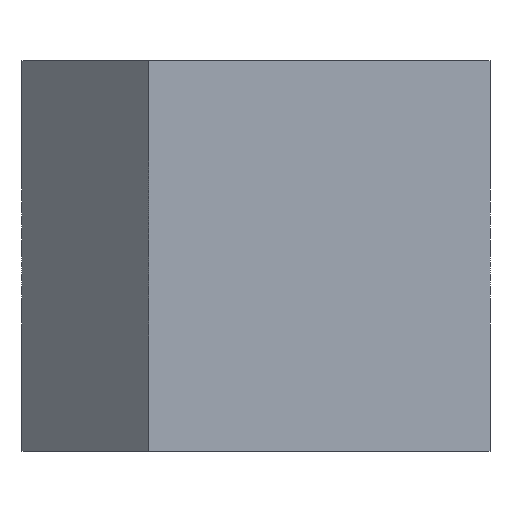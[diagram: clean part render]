
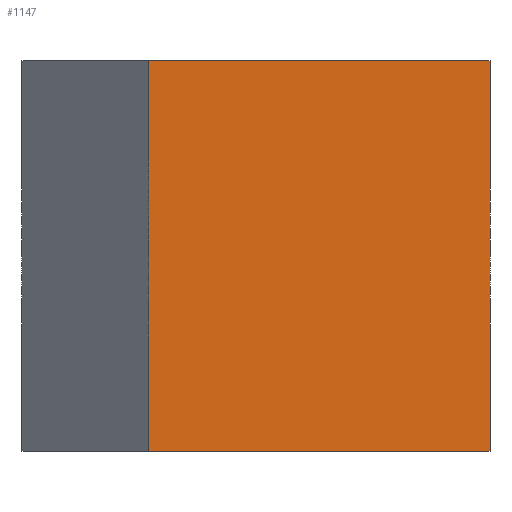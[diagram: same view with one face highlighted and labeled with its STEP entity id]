
A CAD part, left-side view. The second image highlights one B-rep face of the part: STEP entity #1147.
In plain terms, the highlighted planar face has unit normal (-1, 0, 0).
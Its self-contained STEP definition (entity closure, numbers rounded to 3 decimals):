
#70 = LINE ( 'NONE', #1492, #809 ) ;
#230 = ORIENTED_EDGE ( 'NONE', *, *, #1870, .T. ) ;
#231 = DIRECTION ( 'NONE',  ( 0., -1., 0. ) ) ;
#234 = CARTESIAN_POINT ( 'NONE',  ( -33., 11., -20. ) ) ;
#375 = LINE ( 'NONE', #700, #1173 ) ;
#381 = LINE ( 'NONE', #1633, #1565 ) ;
#396 = EDGE_CURVE ( 'NONE', #1498, #951, #928, .T. ) ;
#422 = ORIENTED_EDGE ( 'NONE', *, *, #540, .T. ) ;
#540 = EDGE_CURVE ( 'NONE', #1793, #1138, #381, .T. ) ;
#550 = AXIS2_PLACEMENT_3D ( 'NONE', #735, #776, #1080 ) ;
#638 = EDGE_LOOP ( 'NONE', ( #1671, #422, #230, #1540 ) ) ;
#655 = CARTESIAN_POINT ( 'NONE',  ( -33., -24., 20. ) ) ;
#700 = CARTESIAN_POINT ( 'NONE',  ( -33., 11., -20. ) ) ;
#735 = CARTESIAN_POINT ( 'NONE',  ( -33., -24., -20. ) ) ;
#776 = DIRECTION ( 'NONE',  ( -1., 0., 0. ) ) ;
#809 = VECTOR ( 'NONE', #1506, 1000. ) ;
#922 = CARTESIAN_POINT ( 'NONE',  ( -33., 11., 20. ) ) ;
#926 = EDGE_CURVE ( 'NONE', #1793, #1498, #375, .T. ) ;
#928 = LINE ( 'NONE', #1992, #1530 ) ;
#951 = VERTEX_POINT ( 'NONE', #655 ) ;
#1012 = DIRECTION ( 'NONE',  ( 0., 0., 1. ) ) ;
#1080 = DIRECTION ( 'NONE',  ( 0., -1., 0. ) ) ;
#1138 = VERTEX_POINT ( 'NONE', #1484 ) ;
#1147 = ADVANCED_FACE ( 'NONE', ( #1186 ), #1507, .T. ) ;
#1173 = VECTOR ( 'NONE', #1012, 1000. ) ;
#1186 = FACE_OUTER_BOUND ( 'NONE', #638, .T. ) ;
#1484 = CARTESIAN_POINT ( 'NONE',  ( -33., -24., -20. ) ) ;
#1492 = CARTESIAN_POINT ( 'NONE',  ( -33., -24., -20. ) ) ;
#1498 = VERTEX_POINT ( 'NONE', #922 ) ;
#1506 = DIRECTION ( 'NONE',  ( 0., 0., 1. ) ) ;
#1507 = PLANE ( 'NONE',  #550 ) ;
#1530 = VECTOR ( 'NONE', #1541, 1000. ) ;
#1540 = ORIENTED_EDGE ( 'NONE', *, *, #396, .F. ) ;
#1541 = DIRECTION ( 'NONE',  ( 0., -1., 0. ) ) ;
#1565 = VECTOR ( 'NONE', #231, 1000. ) ;
#1633 = CARTESIAN_POINT ( 'NONE',  ( -33., -24., -20. ) ) ;
#1671 = ORIENTED_EDGE ( 'NONE', *, *, #926, .F. ) ;
#1793 = VERTEX_POINT ( 'NONE', #234 ) ;
#1870 = EDGE_CURVE ( 'NONE', #1138, #951, #70, .T. ) ;
#1992 = CARTESIAN_POINT ( 'NONE',  ( -33., -24., 20. ) ) ;
